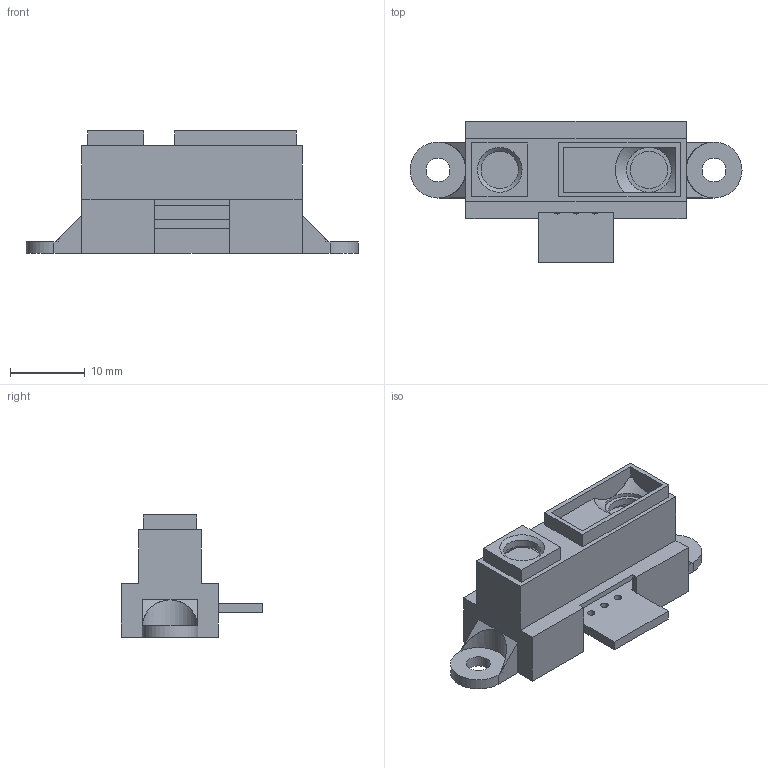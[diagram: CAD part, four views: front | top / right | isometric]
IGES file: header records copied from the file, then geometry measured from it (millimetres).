
Global section: file name: No Iges File Name specified; native system: AutoDesk Inventor R6.0; preprocessor: AutoDesk Inventor Iges Exporter R6.0; author: No Author specified; organization: No Organization specified; date: 20080102.171451; units: inch
Bounding box: 44.5 x 18.9 x 16.4 mm (x, y, z)
Surface area: 4263.2 mm2 (no closed solid volume)
Topology: 0 solids, 0 shells, 109 faces, 571 edges, 559 vertices
Faces by surface type: plane 70, bspline 24, revolution 15
